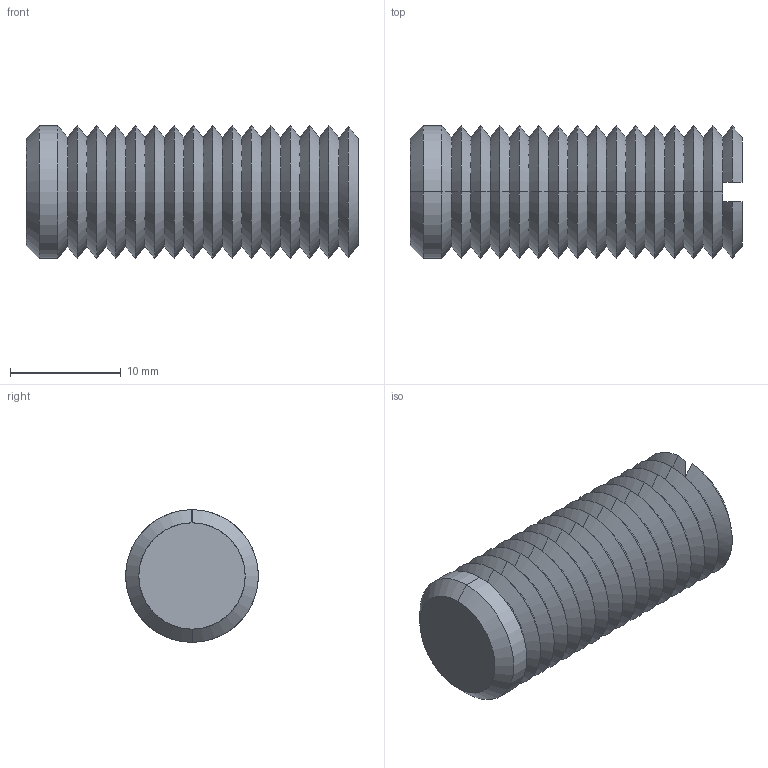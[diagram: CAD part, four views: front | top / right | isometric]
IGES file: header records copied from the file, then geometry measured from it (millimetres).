
Start section: SolidWorks IGES file using analytic representation for surfaces
Global section: file name: C:\Documents and Settings\IANO\Desktop\Temp File\Process pending\EXISTING\34300_v2\34300_v2_20170622_IGES\34300.W0120.igs; native system: SolidWorks 2009; preprocessor: SolidWorks 2009; author: IANO; date: 170622.094134; units: millimetre
Bounding box: 30 x 12 x 12 mm (x, y, z)
Surface area: 1783.7 mm2 (no closed solid volume)
Topology: 0 solids, 0 shells, 72 faces, 352 edges, 352 vertices
Faces by surface type: revolution 66, bspline 6
